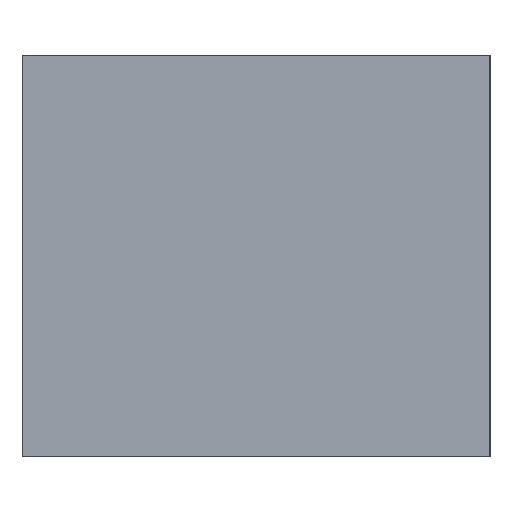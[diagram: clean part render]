
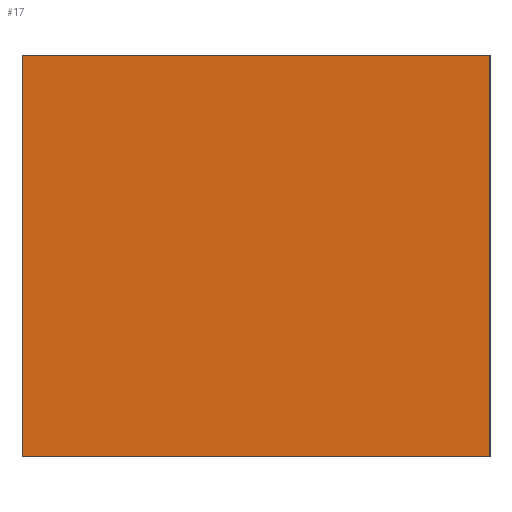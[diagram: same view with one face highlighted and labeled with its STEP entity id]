
A CAD part, left-side view. The second image highlights one B-rep face of the part: STEP entity #17.
In plain terms, the highlighted planar face has unit normal (-1, 0, 0).
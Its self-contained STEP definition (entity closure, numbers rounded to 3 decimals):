
#17 = ADVANCED_FACE('',(#18),#52,.F.);
#18 = FACE_BOUND('',#19,.F.);
#19 = EDGE_LOOP('',(#20,#30,#38,#46));
#20 = ORIENTED_EDGE('',*,*,#21,.F.);
#21 = EDGE_CURVE('',#22,#24,#26,.T.);
#22 = VERTEX_POINT('',#23);
#23 = CARTESIAN_POINT('',(-520.,-140.,0.));
#24 = VERTEX_POINT('',#25);
#25 = CARTESIAN_POINT('',(-520.,-140.,240.));
#26 = LINE('',#27,#28);
#27 = CARTESIAN_POINT('',(-520.,-140.,0.));
#28 = VECTOR('',#29,1.);
#29 = DIRECTION('',(0.,0.,1.));
#30 = ORIENTED_EDGE('',*,*,#31,.T.);
#31 = EDGE_CURVE('',#22,#32,#34,.T.);
#32 = VERTEX_POINT('',#33);
#33 = CARTESIAN_POINT('',(-520.,140.,0.));
#34 = LINE('',#35,#36);
#35 = CARTESIAN_POINT('',(-520.,-140.,0.));
#36 = VECTOR('',#37,1.);
#37 = DIRECTION('',(-0.,1.,0.));
#38 = ORIENTED_EDGE('',*,*,#39,.T.);
#39 = EDGE_CURVE('',#32,#40,#42,.T.);
#40 = VERTEX_POINT('',#41);
#41 = CARTESIAN_POINT('',(-520.,140.,240.));
#42 = LINE('',#43,#44);
#43 = CARTESIAN_POINT('',(-520.,140.,0.));
#44 = VECTOR('',#45,1.);
#45 = DIRECTION('',(0.,0.,1.));
#46 = ORIENTED_EDGE('',*,*,#47,.F.);
#47 = EDGE_CURVE('',#24,#40,#48,.T.);
#48 = LINE('',#49,#50);
#49 = CARTESIAN_POINT('',(-520.,-140.,240.));
#50 = VECTOR('',#51,1.);
#51 = DIRECTION('',(-0.,1.,0.));
#52 = PLANE('',#53);
#53 = AXIS2_PLACEMENT_3D('',#54,#55,#56);
#54 = CARTESIAN_POINT('',(-520.,-140.,0.));
#55 = DIRECTION('',(1.,0.,-0.));
#56 = DIRECTION('',(0.,0.,1.));
